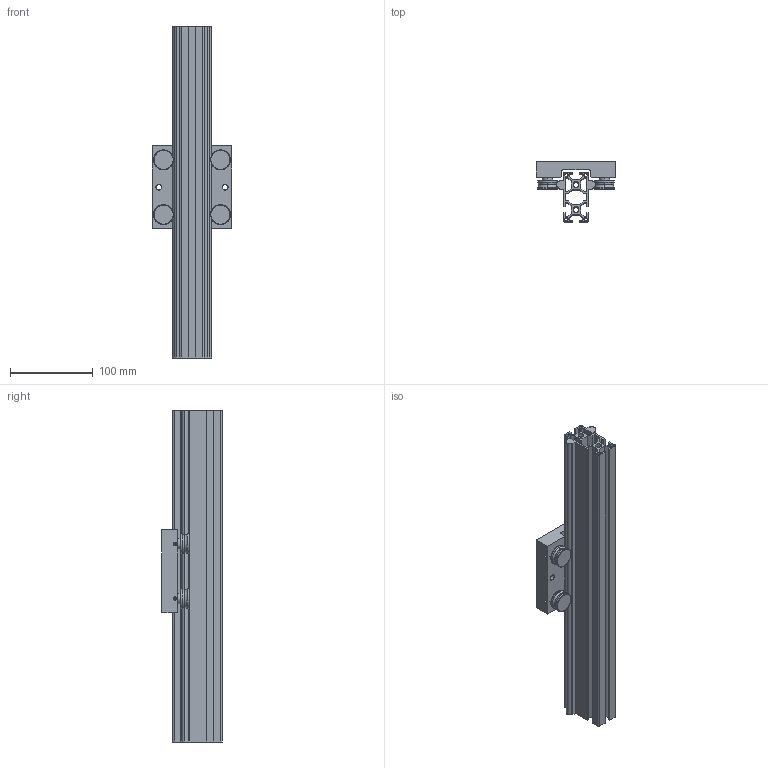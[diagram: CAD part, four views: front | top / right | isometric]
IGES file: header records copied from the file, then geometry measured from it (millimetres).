
Start section: SolidWorks IGES file using analytic representation for surfaces
Bounding box: 96 x 73 x 400 mm (x, y, z)
Surface area: 275695.7 mm2 (no closed solid volume)
Topology: 0 solids, 0 shells, 374 faces, 5366 edges, 5366 vertices
Faces by surface type: bspline 201, revolution 173
